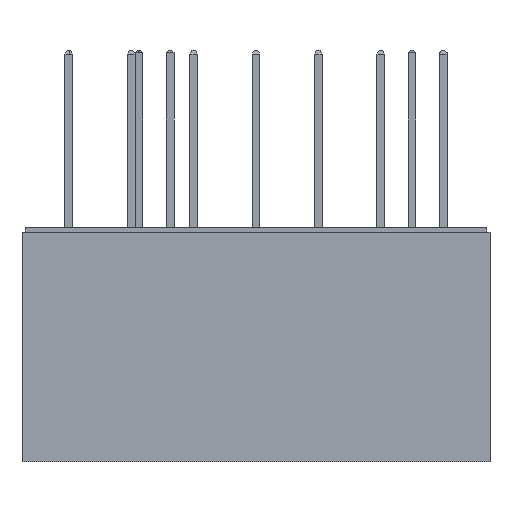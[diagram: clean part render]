
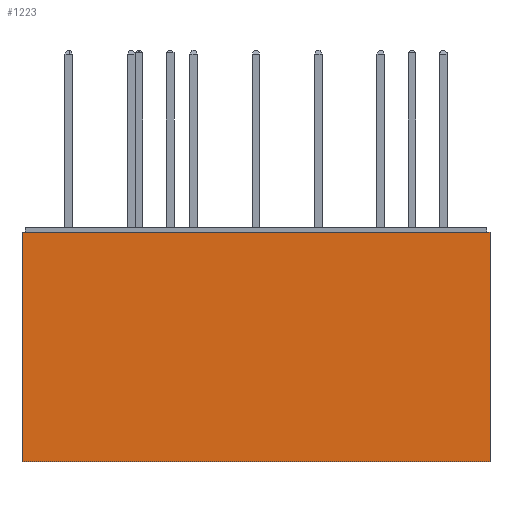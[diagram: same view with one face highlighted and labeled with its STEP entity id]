
A CAD part, left-side view. The second image highlights one B-rep face of the part: STEP entity #1223.
In plain terms, the highlighted planar face has unit normal (-1, 0, 0).
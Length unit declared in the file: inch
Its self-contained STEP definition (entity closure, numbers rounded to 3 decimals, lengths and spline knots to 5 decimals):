
#1184=CARTESIAN_POINT('',(-1.485,-0.75,-0.1975));
#1185=DIRECTION('',(-1.0,0.0,0.0));
#1186=DIRECTION('',(0.0,0.0,1.0));
#1187=AXIS2_PLACEMENT_3D('',#1184,#1185,#1186);
#1188=PLANE('',#1187);
#1189=CARTESIAN_POINT('',(-1.485,-0.75,0.5375));
#1190=VERTEX_POINT('',#1189);
#1191=CARTESIAN_POINT('',(-1.485,0.75,0.5375));
#1192=VERTEX_POINT('',#1191);
#1193=CARTESIAN_POINT('',(-1.485,-0.75,0.5375));
#1194=DIRECTION('',(0.0,1.0,0.0));
#1195=VECTOR('',#1194,1.5);
#1196=LINE('',#1193,#1195);
#1197=EDGE_CURVE('',#1190,#1192,#1196,.T.);
#1198=ORIENTED_EDGE('',*,*,#1197,.T.);
#1199=CARTESIAN_POINT('',(-1.485,0.75,-0.1975));
#1200=VERTEX_POINT('',#1199);
#1201=CARTESIAN_POINT('',(-1.485,0.75,-0.1975));
#1202=DIRECTION('',(0.0,0.0,1.0));
#1203=VECTOR('',#1202,0.735);
#1204=LINE('',#1201,#1203);
#1205=EDGE_CURVE('',#1200,#1192,#1204,.T.);
#1206=ORIENTED_EDGE('',*,*,#1205,.F.);
#1207=CARTESIAN_POINT('',(-1.485,-0.75,-0.1975));
#1208=VERTEX_POINT('',#1207);
#1209=CARTESIAN_POINT('',(-1.485,0.75,-0.1975));
#1210=DIRECTION('',(0.0,-1.0,0.0));
#1211=VECTOR('',#1210,1.5);
#1212=LINE('',#1209,#1211);
#1213=EDGE_CURVE('',#1200,#1208,#1212,.T.);
#1214=ORIENTED_EDGE('',*,*,#1213,.T.);
#1215=CARTESIAN_POINT('',(-1.485,-0.75,-0.1975));
#1216=DIRECTION('',(0.0,0.0,1.0));
#1217=VECTOR('',#1216,0.735);
#1218=LINE('',#1215,#1217);
#1219=EDGE_CURVE('',#1208,#1190,#1218,.T.);
#1220=ORIENTED_EDGE('',*,*,#1219,.T.);
#1221=EDGE_LOOP('',(#1198,#1206,#1214,#1220));
#1222=FACE_OUTER_BOUND('',#1221,.T.);
#1223=ADVANCED_FACE('',(#1222),#1188,.T.);
